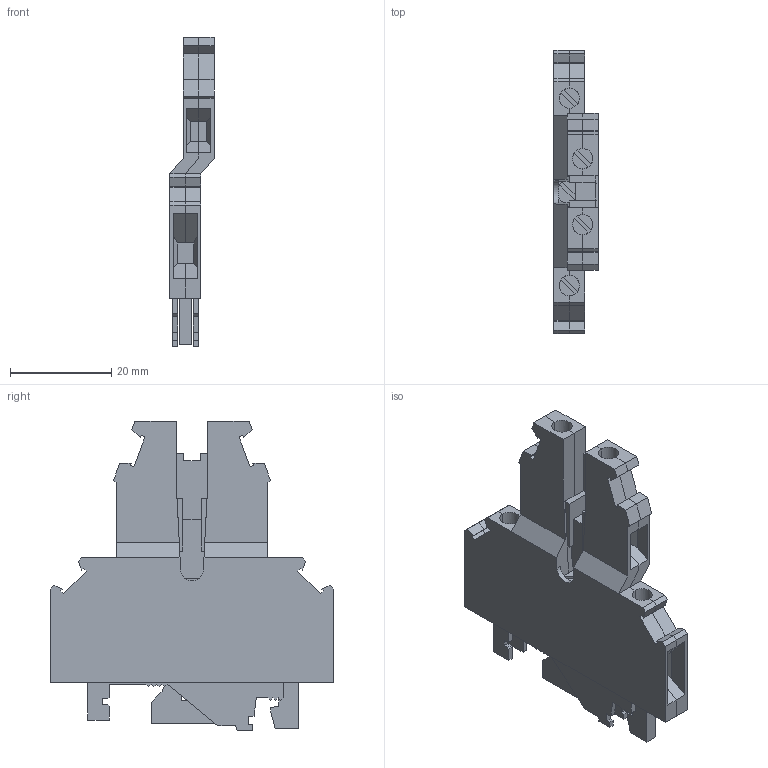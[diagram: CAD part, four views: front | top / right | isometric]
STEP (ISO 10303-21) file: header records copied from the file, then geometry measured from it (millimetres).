
FILE_DESCRIPTION(('Creo Elements/Direct Modeling STEP Export'),'2;1');
FILE_NAME('C:/Temp/JobServerData/JobServer Files/4116e271-049f-4be6-a951-123141f13c9d/work/output/model.stp','2021-02-25T 8:36:59',(''),(''),'Creo Elements/Direct Modeling STEP processor for AP214 (Solid Model)','Creo Elements/Direct Modeling 20.1D 10-Oct-2020 (C) Parametric Technology GmbH','');
FILE_SCHEMA(('AUTOMOTIVE_DESIGN { 1 0 10303 214 1 1 1 1 }'));
Length unit declared in the file: millimetre
Products named in the file (2): UKK_5-PE-select
Assembly tree (1 placements, depth 2):
  UKK_5-PE-select
    UKK_5-PE-select
Bounding box: 8.75 x 56 x 61.15 mm (x, y, z)
Volume: 11162 mm3; surface area: 8030.8 mm2
Topology: 1 solids, 1 shells, 319 faces, 867 edges, 550 vertices
Faces by surface type: plane 307, cylinder 12
Entity records: 11665 total; most frequent: ORIENTED_EDGE 1734, CARTESIAN_POINT 1581, DIRECTION 1315, EDGE_CURVE 867, VECTOR 747, LINE 747, VERTEX_POINT 550, EDGE_LOOP 321
